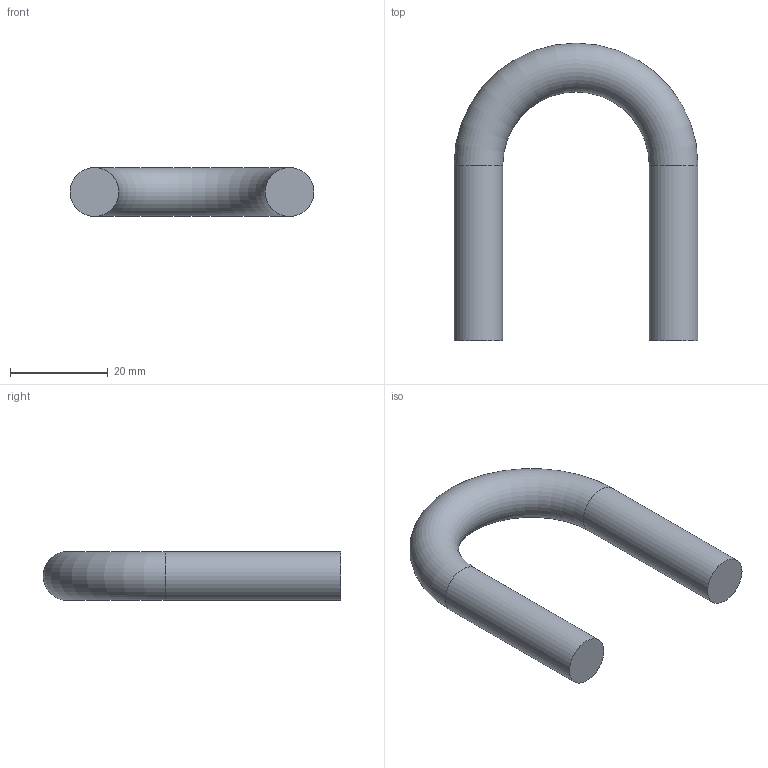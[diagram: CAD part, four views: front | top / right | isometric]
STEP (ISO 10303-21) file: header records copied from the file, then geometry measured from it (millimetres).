
FILE_DESCRIPTION(/* description */ (''),/* implementation_level */ '2;1');
FILE_NAME(/* name */ 'C:\Users\D\Documents\Inventor\各種小物\JIS\01-Uボルト2\一般配管用\20A\u-bolt-20a-m10.stp',/* time_stamp */ '2022-04-27T10:14:49+09:00',/* author */ ('D'),/* organization */ (''),/* preprocessor_version */ 'ST-DEVELOPER v18',/* originating_system */ 'Autodesk Inventor 2020',/* authorisation */ '');
FILE_SCHEMA (('AUTOMOTIVE_DESIGN { 1 0 10303 214 3 1 1 }'));
Length unit declared in the file: millimetre
Products named in the file (1): u-bolt-8a-m6
Bounding box: 50 x 61 x 10 mm (x, y, z)
Volume: 10589.7 mm3; surface area: 4392.9 mm2
Topology: 1 solids, 1 shells, 5 faces, 11 edges, 8 vertices
Faces by surface type: cylinder 2, plane 2, torus 1
Full cylindrical faces by diameter (mm): 10 x2
Entity records: 191 total; most frequent: DIRECTION 32, CARTESIAN_POINT 25, ORIENTED_EDGE 22, AXIS2_PLACEMENT_3D 15, EDGE_CURVE 11, CIRCLE 9, VERTEX_POINT 8, FACE_OUTER_BOUND 5
